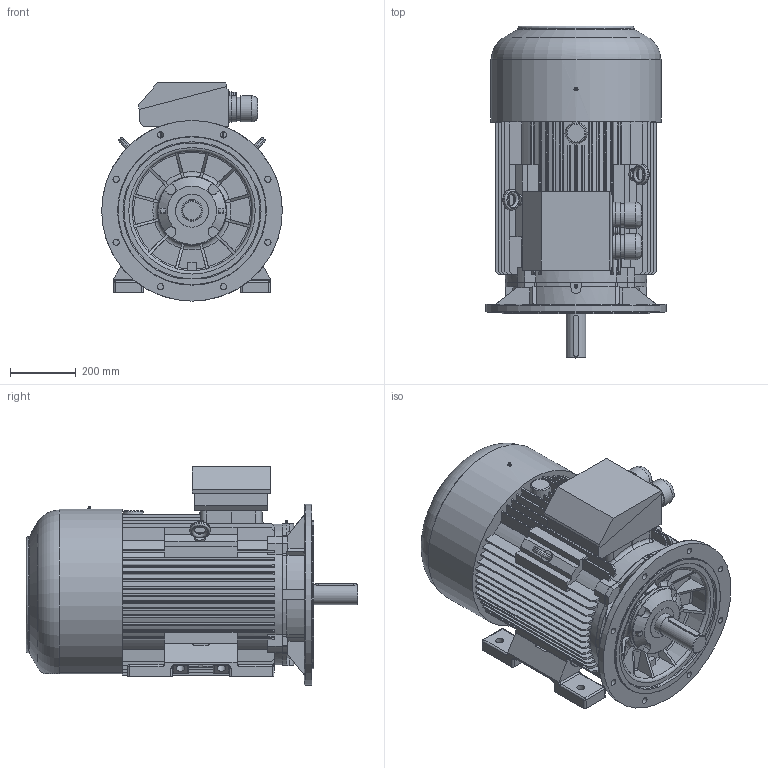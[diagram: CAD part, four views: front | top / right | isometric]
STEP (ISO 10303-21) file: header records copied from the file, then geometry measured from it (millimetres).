
FILE_DESCRIPTION( ( 'Unknown' ), '1' );
FILE_NAME( 'C:/Documents and Settings/kwalica/Pulpit/2,3 SIE paczka/3SIE 250/STP/2SIEL250_M2 silnik.stp', 'Unknown', ( 'Unknown' ), ( 'Unknown' ), 'XStep 1.0', 'Unknown', ' ' );
FILE_SCHEMA( ( 'CONFIG_CONTROL_DESIGN' ) );
Length unit declared in the file: millimetre
Products named in the file (3): 1; 2; 3
Bounding box: 550 x 1010 x 664.3 mm (x, y, z)
Volume: 157126790.2 mm3; surface area: 3954530 mm2
Topology: 3 solids, 6 shells, 1229 faces, 3267 edges, 2040 vertices
Faces by surface type: plane 682, cylinder 331, torus 85, bspline 72, sphere 48, cone 11
Full cylindrical faces by diameter (mm): 1.6 x2, 5 x6, 11.083 x1, 17.5 x4, 19 x9, 21 x1, 23 x1, 24 x4, 26 x4, 27 x1, 35 x4, 40 x2, 60 x1, 64.5 x1, 71.32 x2, 78.781 x2, 80.024 x2, 81.268 x2, 100 x1, 208 x1, 210 x1, 450 x1, 550 x1
Entity records: 48996 total; most frequent: CARTESIAN_POINT 19183, ORIENTED_EDGE 6190, DIRECTION 6129, EDGE_CURVE 3095, AXIS2_PLACEMENT_3D 2140, VERTEX_POINT 1999, LINE 1849, VECTOR 1849
